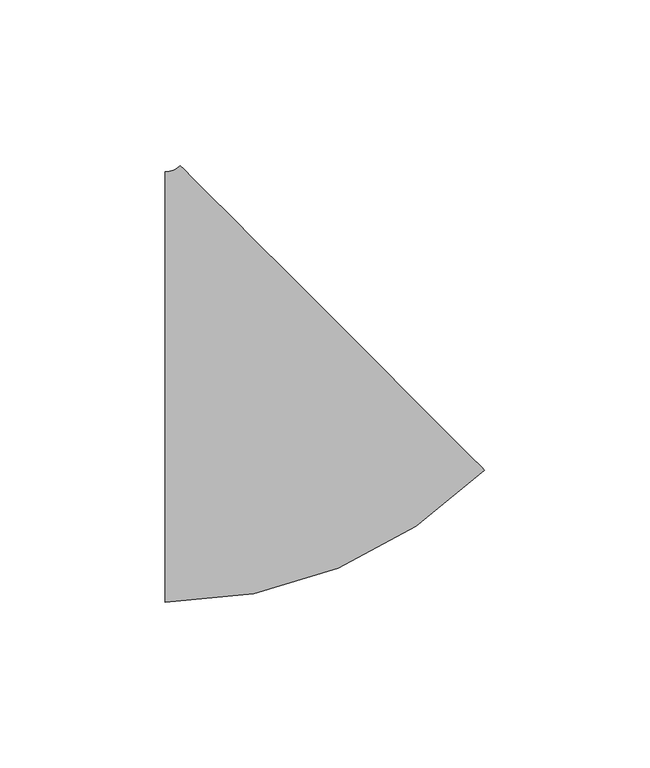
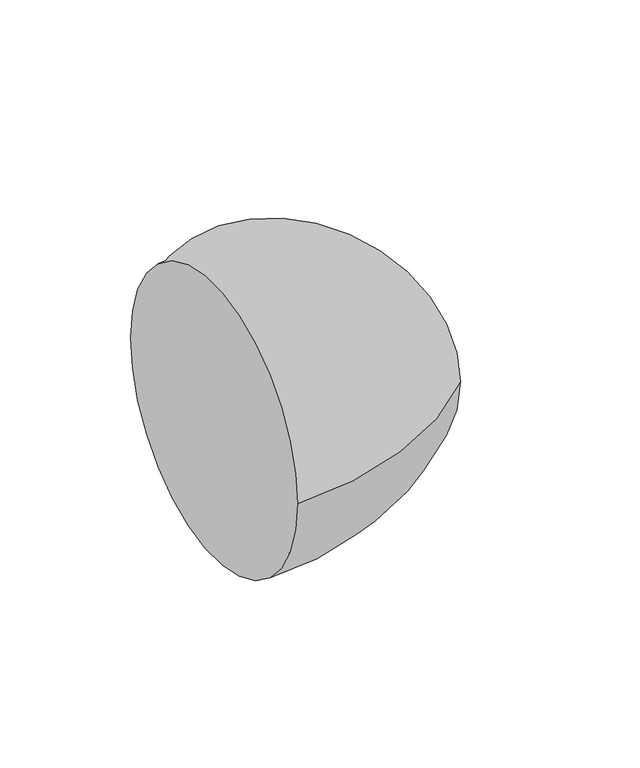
"""IFC4 building model written with IfcOpenShell, lengths in millimetres: pipe fitting geometry, M_Codo - Genérico : Estándar."""

from ifc_helpers import new_model, si_unit, point, frame, origin, place, context, project, spatial, circle_curve, ellipse_curve, trimmed, source, transform, mapped, element, save
from ifc_brep_helpers import plane_surface, revolved_surface, advanced_brep


def pipe_fitting_620f18d1(model_context):
    return source(origin(), model_context, "Body", "AdvancedBrep", [
        advanced_brep(
        [(-29.5783555, -65.0875, 0.0), (-29.5783555, 65.0875, 0.0), (66.9316495, -25.1279936, 0.0), (-25.0895181, 66.9460817, 0.0)],
        [
            (0, 1, circle_curve(frame((-29.5783555, 0.0, 0.0), z_axis=(-1.0, 0.0, 0.0), x_axis=(0.0, 1.0, 0.0)), 65.0875)),
            (1, 0, circle_curve(frame((-29.5783555, 0.0, 0.0), z_axis=(-1.0, 0.0, 0.0), x_axis=(0.0, 1.0, 0.0)), 65.0875)),
            (2, 3, circle_curve(frame((20.9210657, 20.909044, 0.0), z_axis=(0.7073099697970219, 0.7069035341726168, 0.0), x_axis=(-0.7069035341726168, 0.7073099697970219, 0.0)), 65.0875)),
            (3, 2, circle_curve(frame((20.9210657, 20.909044, 0.0), z_axis=(0.7073099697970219, 0.7069035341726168, 0.0), x_axis=(-0.7069035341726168, 0.7073099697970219, 0.0)), 65.0875)),
            (3, 1, circle_curve(frame((-29.5783555, 71.4375, 0.0), z_axis=(0.0, 0.0, -1.0), x_axis=(0.0, -1.0, 0.0)), 6.35)),
            (0, 2, circle_curve(frame((-29.5783555, 71.4375, 0.0), z_axis=(0.0, 0.0, 1.0), x_axis=(0.0, -1.0, 0.0)), 136.525)),
        ],
        [
            plane_surface(frame((-29.5783555, 0.0, 0.0), z_axis=(-1.0, 0.0, 0.0), x_axis=(0.0, 0.0, 1.0))),
            plane_surface(frame((20.9210657, 20.909044, 0.0), z_axis=(0.7073099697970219, 0.7069035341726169, 0.0), x_axis=(0.0, 0.0, 1.0))),
            revolved_surface(trimmed(ellipse_curve(frame((-29.5783555, 0.0, 0.0), z_axis=(-1.0, 0.0, 0.0), x_axis=(0.0, 1.0, 0.0)), 65.0875, 65.0875), [point((-29.5783555, -65.0875, 0.0))], [point((-29.5783555, 65.0875, 0.0))], True, "CARTESIAN"), (-29.5783555, 71.4375, 0.0), (0.0, 0.0, 1.0)),
            revolved_surface(trimmed(ellipse_curve(frame((-29.5783555, 0.0, 0.0), z_axis=(-1.0, 0.0, 0.0), x_axis=(0.0, 1.0, 0.0)), 65.0875, 65.0875), [point((-29.5783555, 65.0875, 0.0))], [point((-29.5783555, -65.0875, 0.0))], True, "CARTESIAN"), (-29.5783555, 71.4375, 0.0), (0.0, 0.0, 1.0)),
        ],
        [
            (0, [[1, 2]]),
            (1, [[3, 4]]),
            (2, [[5, -1, 6, -4]]),
            (3, [[-6, -2, -5, -3]]),
        ],
    ),
    ])


if __name__ == "__main__":
    model = new_model("IFC4")
    model_context = context("Model", 3, world=origin())
    ifc_project = project(units=[si_unit("LENGTHUNIT", "METRE", prefix="MILLI")], contexts=[model_context])
    site = spatial("IfcSite", under=ifc_project)
    building = spatial("IfcBuilding", under=site)
    placement = place(None, origin())
    pipe_fitting_shape = pipe_fitting_620f18d1(model_context)
    element("IfcPipeFitting", 1, ObjectType="M_Codo - Genérico : Estándar", at=placement, inside=building, context=model_context, shape_type="MappedRepresentation", body=[
        mapped(pipe_fitting_shape, transform((0.0, 0.0, 0.0), x_axis=(1.0, 0.0, 0.0), y_axis=(0.0, 1.0, 0.0), z_axis=(0.0, 0.0, 1.0))),
    ])
    save(model, "model.ifc")
